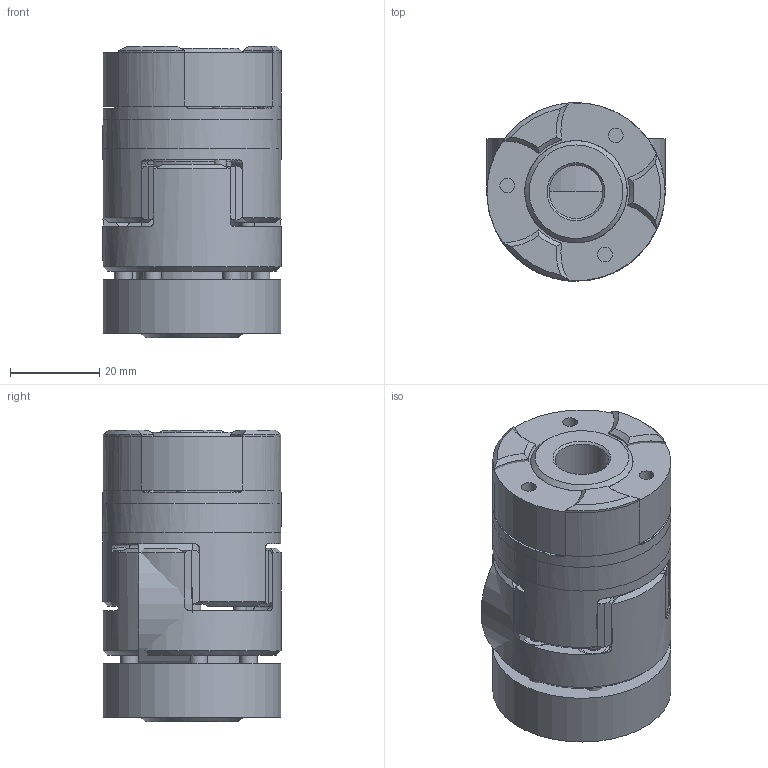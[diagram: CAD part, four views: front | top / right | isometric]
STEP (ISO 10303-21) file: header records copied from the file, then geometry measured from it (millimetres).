
FILE_DESCRIPTION( ( 'Unknown' ), '1' );
FILE_NAME( 'C:/Dokumente und Einstellungen/Sven/Desktop/homepage/cad - homepage/KBE3/KBE3 - 19.stp', 'Unknown', ( 'Unknown' ), ( 'Unknown' ), 'XStep 1.0', 'Unknown', ' ' );
FILE_SCHEMA( ( 'automotive_design' ) );
Length unit declared in the file: millimetre
Products named in the file (5): Assem1; Zahnkranz_19_Standard; KBE 3 - 19_Nabe; KBE3-19_Klemmring; ISO EN DIN 4762_M4x16
Bounding box: 40 x 40 x 65.5 mm (x, y, z)
Volume: 93687.5 mm3; surface area: 51756.8 mm2
Topology: 21 solids, 21 shells, 843 faces, 1883 edges, 1153 vertices
Faces by surface type: plane 278, cone 215, cylinder 209, bspline 72, torus 69
Full cylindrical faces by diameter (mm): 3 x12, 3.3 x27, 3.5 x13, 4 x26, 4.5 x18, 7 x13, 8 x18, 12 x3, 18 x4, 22 x3, 25.1 x3, 40 x6
Entity records: 7274 total; most frequent: CARTESIAN_POINT 2223, DIRECTION 1014, ORIENTED_EDGE 946, EDGE_CURVE 473, AXIS2_PLACEMENT_3D 468, VERTEX_POINT 323, EDGE_LOOP 322, FACE_OUTER_BOUND 266
